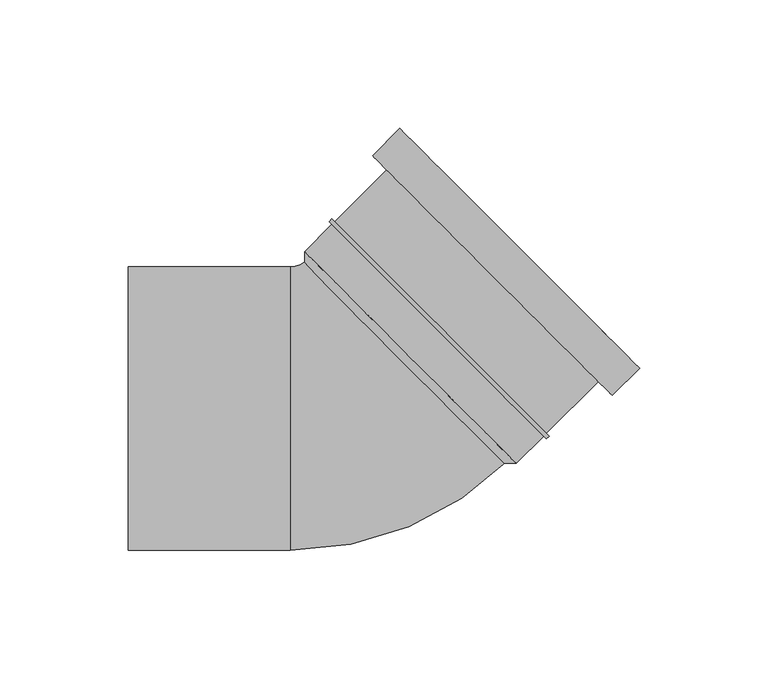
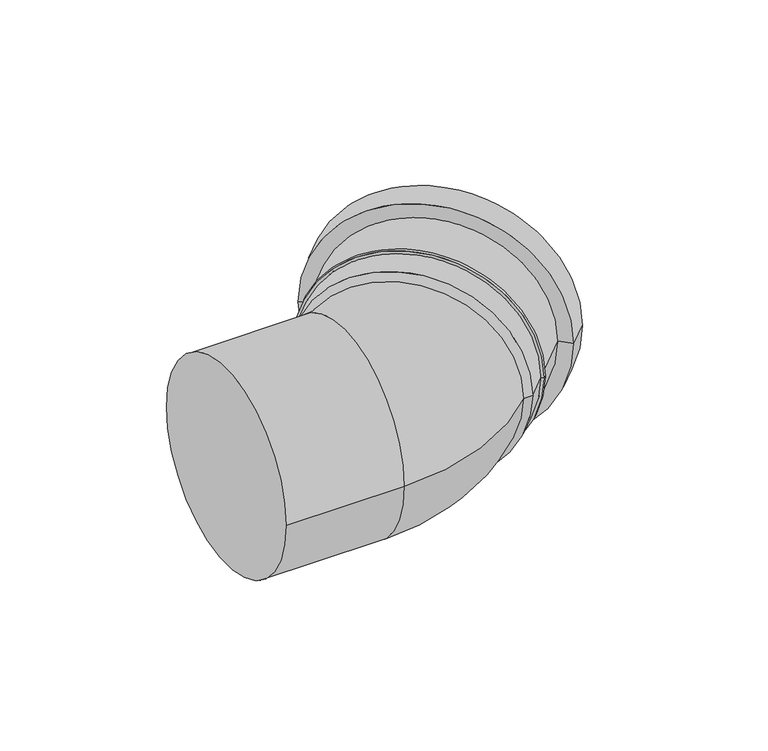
"""IFC4 building model written with IfcOpenShell, lengths in millimetres: pipe fitting geometry, UN_PIF_PP bend S-Sp_SH_PipeLife : Black, var. DN/OD (max. ø125, nested)."""

from ifc_helpers import new_model, si_unit, point, frame, origin, place, context, project, spatial, polyline, circle_curve, ellipse_curve, trimmed, source, transform, mapped, element, save
from ifc_brep_helpers import plane_surface, cylinder_surface, revolved_surface, advanced_brep


def pipe_fitting_9edbee4e(model_context):
    return source(origin(), model_context, "Body", "AdvancedBrep", [
        advanced_brep(
        [(56.3564105, -21.4253355, 0.0), (-21.4253355, 56.3564105, 0.0), (-21.4253355, 61.0233152, 0.0), (61.0233152, -21.4253355, 0.0), (109.0358657, 15.6977705, 0.0), (15.6977705, 109.0358657, 0.0), (23.4759451, 101.2576911, 0.0), (101.2576911, 23.4759451, 0.0), (98.3939086, 5.0558135, 0.0), (5.0558135, 98.3939086, 0.0), (92.9491864, 10.5005357, 0.0), (10.5005357, 92.9491864, 0.0), (72.7612878, -9.6873629, 0.0), (-9.6873629, 72.7612878, 0.0), (73.8573033, -10.7833784, 0.0), (-10.7833784, 73.8573033, 0.0), (72.7612878, -11.8793939, 0.0), (-11.8793939, 72.7612878, 0.0), (71.6652723, -10.7833784, 0.0), (-10.7833784, 71.6652723, 0.0)],
        [
            (0, 1, circle_curve(frame((17.4655375, 17.4655375, 0.0), z_axis=(0.707106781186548, 0.707106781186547, 0.0), x_axis=(-0.707106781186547, 0.707106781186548, 0.0)), 55.0)),
            (1, 2),
            (2, 3, circle_curve(frame((19.7989899, 19.7989899, 0.0), z_axis=(-0.707106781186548, -0.707106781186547, 0.0), x_axis=(-0.707106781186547, 0.707106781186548, 0.0)), 58.3)),
            (3, 0),
            (1, 0, circle_curve(frame((17.4655375, 17.4655375, 0.0), z_axis=(0.707106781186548, 0.707106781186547, 0.0), x_axis=(-0.707106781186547, 0.707106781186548, 0.0)), 55.0)),
            (3, 2, circle_curve(frame((19.7989899, 19.7989899, 0.0), z_axis=(-0.707106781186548, -0.707106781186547, 0.0), x_axis=(-0.707106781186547, 0.707106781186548, 0.0)), 58.3)),
            (4, 5, circle_curve(frame((62.3668181, 62.3668181, 0.0), z_axis=(0.707106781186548, 0.707106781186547, 0.0), x_axis=(-0.707106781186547, 0.707106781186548, 0.0)), 66.0)),
            (5, 6),
            (6, 7, circle_curve(frame((62.3668181, 62.3668181, 0.0), z_axis=(-0.707106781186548, -0.707106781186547, 0.0), x_axis=(-0.707106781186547, 0.707106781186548, 0.0)), 55.0)),
            (7, 4),
            (5, 4, circle_curve(frame((62.3668181, 62.3668181, 0.0), z_axis=(0.707106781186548, 0.707106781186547, 0.0), x_axis=(-0.707106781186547, 0.707106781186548, 0.0)), 66.0)),
            (7, 6, circle_curve(frame((62.3668181, 62.3668181, 0.0), z_axis=(-0.707106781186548, -0.707106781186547, 0.0), x_axis=(-0.707106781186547, 0.707106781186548, 0.0)), 55.0)),
            (8, 9, circle_curve(frame((51.724861, 51.724861, 0.0), z_axis=(0.707106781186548, 0.707106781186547, 0.0), x_axis=(-0.707106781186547, 0.707106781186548, 0.0)), 66.0)),
            (9, 5),
            (4, 8),
            (9, 8, circle_curve(frame((51.724861, 51.724861, 0.0), z_axis=(0.707106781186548, 0.707106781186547, 0.0), x_axis=(-0.707106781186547, 0.707106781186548, 0.0)), 66.0)),
            (10, 11, circle_curve(frame((51.724861, 51.724861, 0.0), z_axis=(0.707106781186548, 0.707106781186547, 0.0), x_axis=(-0.707106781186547, 0.707106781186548, 0.0)), 58.3)),
            (11, 9),
            (8, 10),
            (11, 10, circle_curve(frame((51.724861, 51.724861, 0.0), z_axis=(0.707106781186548, 0.707106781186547, 0.0), x_axis=(-0.707106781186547, 0.707106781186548, 0.0)), 58.3)),
            (12, 13, circle_curve(frame((31.5369624, 31.5369624, 0.0), z_axis=(0.707106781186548, 0.707106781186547, 0.0), x_axis=(-0.707106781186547, 0.707106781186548, 0.0)), 58.3)),
            (13, 11),
            (10, 12),
            (13, 12, circle_curve(frame((31.5369624, 31.5369624, 0.0), z_axis=(0.707106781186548, 0.707106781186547, 0.0), x_axis=(-0.707106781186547, 0.707106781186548, 0.0)), 58.3)),
            (14, 15, circle_curve(frame((31.5369624, 31.5369624, 0.0), z_axis=(0.707106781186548, 0.707106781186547, 0.0), x_axis=(-0.707106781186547, 0.707106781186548, 0.0)), 59.85)),
            (15, 13),
            (12, 14),
            (15, 14, circle_curve(frame((31.5369624, 31.5369624, 0.0), z_axis=(0.707106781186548, 0.707106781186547, 0.0), x_axis=(-0.707106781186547, 0.707106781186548, 0.0)), 59.85)),
            (16, 17, circle_curve(frame((30.4409469, 30.4409469, 0.0), z_axis=(0.707106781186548, 0.707106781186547, 0.0), x_axis=(-0.707106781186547, 0.707106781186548, 0.0)), 59.85)),
            (17, 15),
            (14, 16),
            (17, 16, circle_curve(frame((30.4409469, 30.4409469, 0.0), z_axis=(0.707106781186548, 0.707106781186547, 0.0), x_axis=(-0.707106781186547, 0.707106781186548, 0.0)), 59.85)),
            (18, 19, circle_curve(frame((30.4409469, 30.4409469, 0.0), z_axis=(0.707106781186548, 0.707106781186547, 0.0), x_axis=(-0.707106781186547, 0.707106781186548, 0.0)), 58.3)),
            (19, 17),
            (16, 18),
            (19, 18, circle_curve(frame((30.4409469, 30.4409469, 0.0), z_axis=(0.707106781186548, 0.707106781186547, 0.0), x_axis=(-0.707106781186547, 0.707106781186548, 0.0)), 58.3)),
            (2, 19),
            (18, 3),
            (6, 1),
            (0, 7),
        ],
        [
            revolved_surface(polyline([(-21.4253355, 61.0233152, 0.0), (-21.4253355, 56.3564105, 0.0)]), (62.3668181, 62.3668181, 0.0), (-0.707106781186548, -0.707106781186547, 0.0)),
            plane_surface(frame((62.3668181, 62.3668181, 0.0), z_axis=(0.707106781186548, 0.707106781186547, 0.0), x_axis=(-0.707106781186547, 0.707106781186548, 0.0))),
            cylinder_surface(frame((62.3668181, 62.3668181, 0.0), z_axis=(-0.707106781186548, -0.707106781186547, 0.0), x_axis=(-0.707106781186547, 0.707106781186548, 0.0)), 66.0),
            plane_surface(frame((51.724861, 51.724861, 0.0), z_axis=(-0.707106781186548, -0.707106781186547, 0.0), x_axis=(-0.707106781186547, 0.707106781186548, 0.0))),
            cylinder_surface(frame((62.3668181, 62.3668181, 0.0), z_axis=(-0.707106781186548, -0.707106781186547, 0.0), x_axis=(-0.707106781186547, 0.707106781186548, 0.0)), 58.3),
            plane_surface(frame((31.5369624, 31.5369624, 0.0), z_axis=(0.707106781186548, 0.707106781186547, 0.0), x_axis=(-0.707106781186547, 0.707106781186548, 0.0))),
            cylinder_surface(frame((62.3668181, 62.3668181, 0.0), z_axis=(-0.707106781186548, -0.707106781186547, 0.0), x_axis=(-0.707106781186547, 0.707106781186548, 0.0)), 59.85),
            plane_surface(frame((30.4409469, 30.4409469, 0.0), z_axis=(-0.707106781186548, -0.707106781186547, 0.0), x_axis=(-0.707106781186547, 0.707106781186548, 0.0))),
            revolved_surface(polyline([(-21.42533546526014, 56.356410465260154, 0.0), (23.475945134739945, 101.25769106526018, 0.0)]), (62.3668181, 62.3668181, 0.0), (-0.707106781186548, -0.707106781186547, 0.0)),
        ],
        [
            (0, [[1, 2, 3, 4]]),
            (0, [[5, -4, 6, -2]]),
            (1, [[7, 8, 9, 10]]),
            (1, [[11, -10, 12, -8]]),
            (2, [[13, 14, -7, 15]]),
            (2, [[16, -15, -11, -14]]),
            (3, [[17, 18, -13, 19]]),
            (3, [[20, -19, -16, -18]]),
            (4, [[21, 22, -17, 23]]),
            (4, [[24, -23, -20, -22]]),
            (5, [[25, 26, -21, 27]]),
            (5, [[28, -27, -24, -26]]),
            (6, [[29, 30, -25, 31]]),
            (6, [[32, -31, -28, -30]]),
            (7, [[33, 34, -29, 35]]),
            (7, [[36, -35, -32, -34]]),
            (4, [[-3, 37, -33, 38]]),
            (4, [[-6, -38, -36, -37]]),
            (8, [[-9, 39, -1, 40]]),
            (8, [[-12, -40, -5, -39]]),
        ],
    ),
        advanced_brep(
        [(-90.0, -55.2, 0.0), (-90.0, 55.2, 0.0), (-27.0, -55.2, 0.0), (-27.0, 55.2, 0.0), (-19.9404112, 58.1241774, 0.0), (58.1241774, -19.9404112, 0.0), (58.8312842, -19.2333044, 0.0), (-19.2333044, 58.8312842, 0.0)],
        [
            (0, 1, circle_curve(frame((-90.0, 0.0, 0.0), z_axis=(-1.0, 0.0, 0.0), x_axis=(0.0, 1.0, 0.0)), 55.2)),
            (1, 0, circle_curve(frame((-90.0, 0.0, 0.0), z_axis=(-1.0, 0.0, 0.0), x_axis=(0.0, 1.0, 0.0)), 55.2)),
            (0, 2),
            (2, 3, circle_curve(frame((-27.0, 0.0, 0.0), z_axis=(-1.0, 0.0, 0.0), x_axis=(0.0, 1.0, 0.0)), 55.2)),
            (3, 1),
            (3, 2, circle_curve(frame((-27.0, 0.0, 0.0), z_axis=(-1.0, 0.0, 0.0), x_axis=(0.0, 1.0, 0.0)), 55.2)),
            (4, 3, circle_curve(frame((-27.0, 65.1837662, 0.0), z_axis=(0.0, 0.0, -1.0), x_axis=(0.0, -1.0, 0.0)), 9.9837662)),
            (2, 5, circle_curve(frame((-27.0, 65.1837662, 0.0), z_axis=(0.0, 0.0, 1.0), x_axis=(0.0, -1.0, 0.0)), 120.3837662)),
            (5, 4, circle_curve(frame((19.0918831, 19.0918831, 0.0), z_axis=(-0.7071067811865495, -0.7071067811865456, 0.0), x_axis=(-0.7071067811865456, 0.7071067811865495, 0.0)), 55.2)),
            (4, 5, circle_curve(frame((19.0918831, 19.0918831, 0.0), z_axis=(-0.7071067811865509, -0.7071067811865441, 0.0), x_axis=(-0.7071067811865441, 0.7071067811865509, 0.0)), 55.2)),
            (6, 7, circle_curve(frame((19.7989899, 19.7989899, 0.0), z_axis=(0.7071067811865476, 0.7071067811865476, 0.0), x_axis=(-0.7071067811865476, 0.7071067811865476, 0.0)), 55.2)),
            (7, 6, circle_curve(frame((19.7989899, 19.7989899, 0.0), z_axis=(0.7071067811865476, 0.7071067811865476, 0.0), x_axis=(-0.7071067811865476, 0.7071067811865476, 0.0)), 55.2)),
            (5, 6),
            (7, 4),
        ],
        [
            plane_surface(frame((-90.0, 0.0, 0.0), z_axis=(-1.0, 0.0, 0.0), x_axis=(0.0, 0.0, 1.0))),
            cylinder_surface(frame((-90.0, 0.0, 0.0), z_axis=(-1.0, 0.0, 0.0), x_axis=(0.0, 1.0, 0.0)), 55.2),
            revolved_surface(trimmed(ellipse_curve(frame((-27.0, 0.0, 0.0), z_axis=(-1.0, 0.0, 0.0), x_axis=(0.0, 1.0, 0.0)), 55.2, 55.2), [point((-27.0, -55.2, 0.0))], [point((-27.0, 55.2, 0.0))], True, "CARTESIAN"), (-27.0, 65.1837662, 0.0), (0.0, 0.0, 1.0)),
            revolved_surface(trimmed(ellipse_curve(frame((-27.0, 0.0, 0.0), z_axis=(-1.0, 0.0, 0.0), x_axis=(0.0, 1.0, 0.0)), 55.2, 55.2), [point((-27.0, 55.2, 0.0))], [point((-27.0, -55.2, 0.0))], True, "CARTESIAN"), (-27.0, 65.1837662, 0.0), (0.0, 0.0, 1.0)),
            plane_surface(frame((19.7989899, 19.7989899, 0.0), z_axis=(0.7071067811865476, 0.7071067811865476, 0.0), x_axis=(0.0, 0.0, 1.0))),
            cylinder_surface(frame((19.0918831, 19.0918831, 0.0), z_axis=(-0.7071067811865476, -0.7071067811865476, 0.0), x_axis=(-0.7071067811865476, 0.7071067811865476, 0.0)), 55.2),
        ],
        [
            (0, [[1, 2]]),
            (1, [[-1, 3, 4, 5]]),
            (1, [[-2, -5, 6, -3]]),
            (2, [[7, -4, 8, 9]]),
            (3, [[-8, -6, -7, 10]]),
            (4, [[11, 12]]),
            (5, [[-9, 13, -12, 14]]),
            (5, [[-10, -14, -11, -13]]),
        ],
    ),
    ])


if __name__ == "__main__":
    model = new_model("IFC4")
    model_context = context("Model", 3, world=origin())
    ifc_project = project(units=[si_unit("LENGTHUNIT", "METRE", prefix="MILLI")], contexts=[model_context])
    site = spatial("IfcSite", under=ifc_project)
    building = spatial("IfcBuilding", under=site)
    placement = place(None, origin())
    pipe_fitting_shape = pipe_fitting_9edbee4e(model_context)
    element("IfcPipeFitting", 1, ObjectType="UN_PIF_PP bend S-Sp_SH_PipeLife : Black, var. DN/OD (max. ø125, nested)", at=placement, inside=building, context=model_context, shape_type="MappedRepresentation", body=[
        mapped(pipe_fitting_shape, transform((0.0, 0.0, 0.0), x_axis=(1.0, 0.0, 0.0), y_axis=(0.0, 1.0, 0.0), z_axis=(0.0, 0.0, 1.0))),
    ])
    save(model, "model.ifc")
